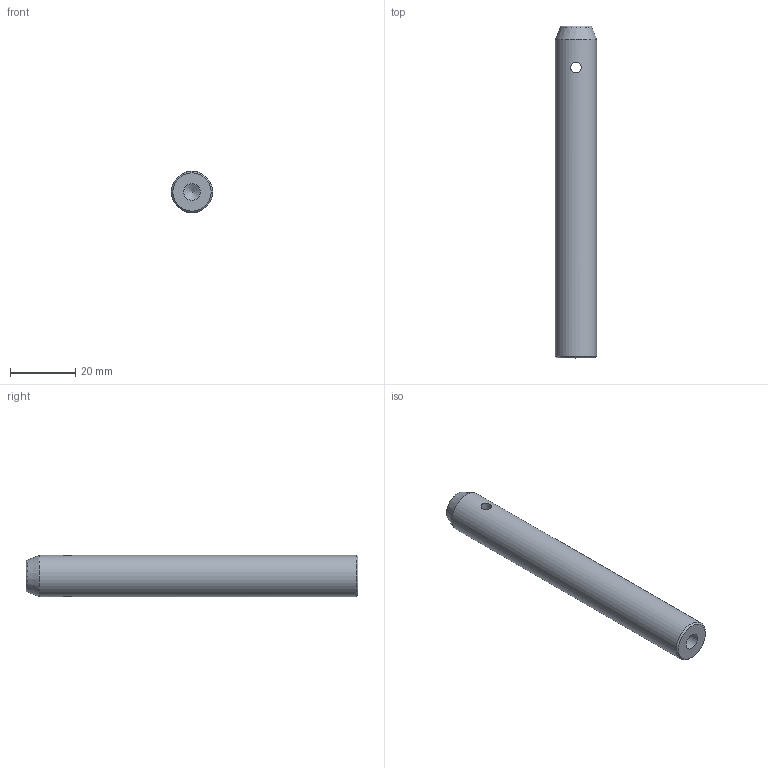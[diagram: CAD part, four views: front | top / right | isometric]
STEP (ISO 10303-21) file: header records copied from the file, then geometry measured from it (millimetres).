
FILE_DESCRIPTION (( 'STEP AP203' ), '1' );
FILE_NAME ('PD-4.step', '2017-01-11T07:22:49', ( '¦K¬P' ), ( '' ), 'SwSTEP 2.0', 'SolidWorks 2012', '' );
FILE_SCHEMA (( 'CONFIG_CONTROL_DESIGN' ));
Length unit declared in the file: millimetre
Products named in the file (1): PD-4
Bounding box: 12.7 x 101.6 x 12.7 mm (x, y, z)
Volume: 12325.3 mm3; surface area: 4621.7 mm2
Topology: 1 solids, 1 shells, 11 faces, 27 edges, 17 vertices
Faces by surface type: cylinder 4, cone 4, plane 2, torus 1
Full cylindrical faces by diameter (mm): 3.3 x2, 5 x1, 12.7 x1
Entity records: 469 total; most frequent: CARTESIAN_POINT 195, DIRECTION 42, ORIENTED_EDGE 24, EDGE_LOOP 24, AXIS2_PLACEMENT_3D 21, FACE_OUTER_BOUND 16, EDGE_CURVE 12, VERTEX_POINT 12
